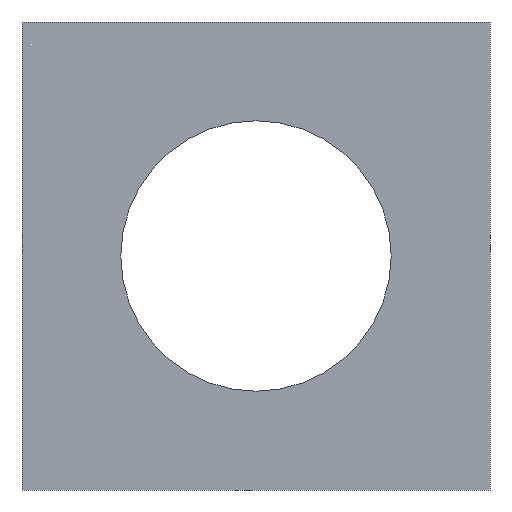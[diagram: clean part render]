
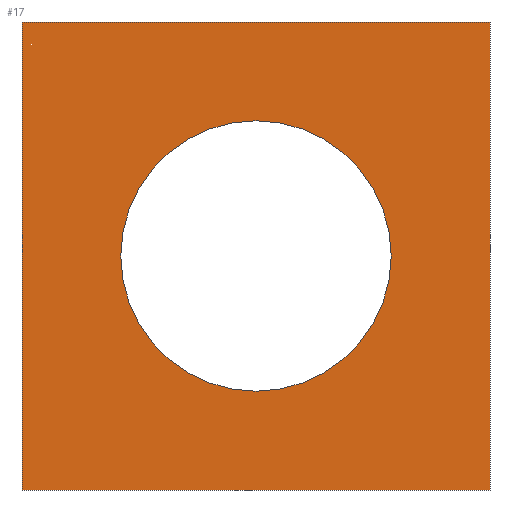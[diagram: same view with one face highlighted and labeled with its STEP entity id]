
A CAD part, left-side view. The second image highlights one B-rep face of the part: STEP entity #17.
In plain terms, the highlighted planar face has unit normal (-1, 0, 0).
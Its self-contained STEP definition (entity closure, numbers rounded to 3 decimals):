
#17 = ADVANCED_FACE('',(#18,#137),#32,.F.);
#18 = FACE_BOUND('',#19,.F.);
#19 = EDGE_LOOP('',(#20,#55,#83,#111));
#20 = ORIENTED_EDGE('',*,*,#21,.F.);
#21 = EDGE_CURVE('',#22,#24,#26,.T.);
#22 = VERTEX_POINT('',#23);
#23 = CARTESIAN_POINT('',(-6.,-9.,0.));
#24 = VERTEX_POINT('',#25);
#25 = CARTESIAN_POINT('',(-6.,-9.,18.));
#26 = SURFACE_CURVE('',#27,(#31,#43),.PCURVE_S1.);
#27 = LINE('',#28,#29);
#28 = CARTESIAN_POINT('',(-6.,-9.,0.));
#29 = VECTOR('',#30,1.);
#30 = DIRECTION('',(0.,0.,1.));
#31 = PCURVE('',#32,#37);
#32 = PLANE('',#33);
#33 = AXIS2_PLACEMENT_3D('',#34,#35,#36);
#34 = CARTESIAN_POINT('',(-6.,-9.,0.));
#35 = DIRECTION('',(1.,0.,0.));
#36 = DIRECTION('',(0.,0.,1.));
#37 = DEFINITIONAL_REPRESENTATION('',(#38),#42);
#38 = LINE('',#39,#40);
#39 = CARTESIAN_POINT('',(0.,0.));
#40 = VECTOR('',#41,1.);
#41 = DIRECTION('',(1.,0.));
#42 = ( GEOMETRIC_REPRESENTATION_CONTEXT(2) 
PARAMETRIC_REPRESENTATION_CONTEXT() REPRESENTATION_CONTEXT('2D SPACE',''
  ) );
#43 = PCURVE('',#44,#49);
#44 = PLANE('',#45);
#45 = AXIS2_PLACEMENT_3D('',#46,#47,#48);
#46 = CARTESIAN_POINT('',(-6.,-9.,0.));
#47 = DIRECTION('',(0.,1.,0.));
#48 = DIRECTION('',(0.,0.,1.));
#49 = DEFINITIONAL_REPRESENTATION('',(#50),#54);
#50 = LINE('',#51,#52);
#51 = CARTESIAN_POINT('',(0.,0.));
#52 = VECTOR('',#53,1.);
#53 = DIRECTION('',(1.,0.));
#54 = ( GEOMETRIC_REPRESENTATION_CONTEXT(2) 
PARAMETRIC_REPRESENTATION_CONTEXT() REPRESENTATION_CONTEXT('2D SPACE',''
  ) );
#55 = ORIENTED_EDGE('',*,*,#56,.T.);
#56 = EDGE_CURVE('',#22,#57,#59,.T.);
#57 = VERTEX_POINT('',#58);
#58 = CARTESIAN_POINT('',(-6.,9.,0.));
#59 = SURFACE_CURVE('',#60,(#64,#71),.PCURVE_S1.);
#60 = LINE('',#61,#62);
#61 = CARTESIAN_POINT('',(-6.,-9.,0.));
#62 = VECTOR('',#63,1.);
#63 = DIRECTION('',(0.,1.,0.));
#64 = PCURVE('',#32,#65);
#65 = DEFINITIONAL_REPRESENTATION('',(#66),#70);
#66 = LINE('',#67,#68);
#67 = CARTESIAN_POINT('',(0.,0.));
#68 = VECTOR('',#69,1.);
#69 = DIRECTION('',(0.,-1.));
#70 = ( GEOMETRIC_REPRESENTATION_CONTEXT(2) 
PARAMETRIC_REPRESENTATION_CONTEXT() REPRESENTATION_CONTEXT('2D SPACE',''
  ) );
#71 = PCURVE('',#72,#77);
#72 = PLANE('',#73);
#73 = AXIS2_PLACEMENT_3D('',#74,#75,#76);
#74 = CARTESIAN_POINT('',(-6.,-9.,0.));
#75 = DIRECTION('',(0.,0.,1.));
#76 = DIRECTION('',(1.,0.,0.));
#77 = DEFINITIONAL_REPRESENTATION('',(#78),#82);
#78 = LINE('',#79,#80);
#79 = CARTESIAN_POINT('',(0.,0.));
#80 = VECTOR('',#81,1.);
#81 = DIRECTION('',(0.,1.));
#82 = ( GEOMETRIC_REPRESENTATION_CONTEXT(2) 
PARAMETRIC_REPRESENTATION_CONTEXT() REPRESENTATION_CONTEXT('2D SPACE',''
  ) );
#83 = ORIENTED_EDGE('',*,*,#84,.T.);
#84 = EDGE_CURVE('',#57,#85,#87,.T.);
#85 = VERTEX_POINT('',#86);
#86 = CARTESIAN_POINT('',(-6.,9.,18.));
#87 = SURFACE_CURVE('',#88,(#92,#99),.PCURVE_S1.);
#88 = LINE('',#89,#90);
#89 = CARTESIAN_POINT('',(-6.,9.,0.));
#90 = VECTOR('',#91,1.);
#91 = DIRECTION('',(0.,0.,1.));
#92 = PCURVE('',#32,#93);
#93 = DEFINITIONAL_REPRESENTATION('',(#94),#98);
#94 = LINE('',#95,#96);
#95 = CARTESIAN_POINT('',(0.,-18.));
#96 = VECTOR('',#97,1.);
#97 = DIRECTION('',(1.,0.));
#98 = ( GEOMETRIC_REPRESENTATION_CONTEXT(2) 
PARAMETRIC_REPRESENTATION_CONTEXT() REPRESENTATION_CONTEXT('2D SPACE',''
  ) );
#99 = PCURVE('',#100,#105);
#100 = PLANE('',#101);
#101 = AXIS2_PLACEMENT_3D('',#102,#103,#104);
#102 = CARTESIAN_POINT('',(-6.,9.,0.));
#103 = DIRECTION('',(0.,1.,0.));
#104 = DIRECTION('',(0.,0.,1.));
#105 = DEFINITIONAL_REPRESENTATION('',(#106),#110);
#106 = LINE('',#107,#108);
#107 = CARTESIAN_POINT('',(0.,0.));
#108 = VECTOR('',#109,1.);
#109 = DIRECTION('',(1.,0.));
#110 = ( GEOMETRIC_REPRESENTATION_CONTEXT(2) 
PARAMETRIC_REPRESENTATION_CONTEXT() REPRESENTATION_CONTEXT('2D SPACE',''
  ) );
#111 = ORIENTED_EDGE('',*,*,#112,.F.);
#112 = EDGE_CURVE('',#24,#85,#113,.T.);
#113 = SURFACE_CURVE('',#114,(#118,#125),.PCURVE_S1.);
#114 = LINE('',#115,#116);
#115 = CARTESIAN_POINT('',(-6.,-9.,18.));
#116 = VECTOR('',#117,1.);
#117 = DIRECTION('',(0.,1.,0.));
#118 = PCURVE('',#32,#119);
#119 = DEFINITIONAL_REPRESENTATION('',(#120),#124);
#120 = LINE('',#121,#122);
#121 = CARTESIAN_POINT('',(18.,0.));
#122 = VECTOR('',#123,1.);
#123 = DIRECTION('',(0.,-1.));
#124 = ( GEOMETRIC_REPRESENTATION_CONTEXT(2) 
PARAMETRIC_REPRESENTATION_CONTEXT() REPRESENTATION_CONTEXT('2D SPACE',''
  ) );
#125 = PCURVE('',#126,#131);
#126 = PLANE('',#127);
#127 = AXIS2_PLACEMENT_3D('',#128,#129,#130);
#128 = CARTESIAN_POINT('',(-6.,-9.,18.));
#129 = DIRECTION('',(0.,0.,1.));
#130 = DIRECTION('',(1.,0.,0.));
#131 = DEFINITIONAL_REPRESENTATION('',(#132),#136);
#132 = LINE('',#133,#134);
#133 = CARTESIAN_POINT('',(0.,0.));
#134 = VECTOR('',#135,1.);
#135 = DIRECTION('',(0.,1.));
#136 = ( GEOMETRIC_REPRESENTATION_CONTEXT(2) 
PARAMETRIC_REPRESENTATION_CONTEXT() REPRESENTATION_CONTEXT('2D SPACE',''
  ) );
#137 = FACE_BOUND('',#138,.F.);
#138 = EDGE_LOOP('',(#139));
#139 = ORIENTED_EDGE('',*,*,#140,.T.);
#140 = EDGE_CURVE('',#141,#141,#143,.T.);
#141 = VERTEX_POINT('',#142);
#142 = CARTESIAN_POINT('',(-6.,0.,3.8));
#143 = SURFACE_CURVE('',#144,(#149,#160),.PCURVE_S1.);
#144 = CIRCLE('',#145,5.2);
#145 = AXIS2_PLACEMENT_3D('',#146,#147,#148);
#146 = CARTESIAN_POINT('',(-6.,0.,9.));
#147 = DIRECTION('',(-1.,-0.,0.));
#148 = DIRECTION('',(0.,0.,-1.));
#149 = PCURVE('',#32,#150);
#150 = DEFINITIONAL_REPRESENTATION('',(#151),#159);
#151 = ( BOUNDED_CURVE() B_SPLINE_CURVE(2,(#152,#153,#154,#155,#156,#157
,#158),.UNSPECIFIED.,.T.,.F.) B_SPLINE_CURVE_WITH_KNOTS((1,2,2,2,2,1),(
    -2.094,0.,2.094,4.189,6.283,
8.378),.UNSPECIFIED.) CURVE() GEOMETRIC_REPRESENTATION_ITEM() 
RATIONAL_B_SPLINE_CURVE((1.,0.5,1.,0.5,1.,0.5,1.)) REPRESENTATION_ITEM(
  '') );
#152 = CARTESIAN_POINT('',(3.8,-9.));
#153 = CARTESIAN_POINT('',(3.8,0.007));
#154 = CARTESIAN_POINT('',(11.6,-4.497));
#155 = CARTESIAN_POINT('',(19.4,-9.));
#156 = CARTESIAN_POINT('',(11.6,-13.503));
#157 = CARTESIAN_POINT('',(3.8,-18.007));
#158 = CARTESIAN_POINT('',(3.8,-9.));
#159 = ( GEOMETRIC_REPRESENTATION_CONTEXT(2) 
PARAMETRIC_REPRESENTATION_CONTEXT() REPRESENTATION_CONTEXT('2D SPACE',''
  ) );
#160 = PCURVE('',#161,#166);
#161 = CYLINDRICAL_SURFACE('',#162,5.2);
#162 = AXIS2_PLACEMENT_3D('',#163,#164,#165);
#163 = CARTESIAN_POINT('',(-8.,0.,9.));
#164 = DIRECTION('',(-1.,-0.,0.));
#165 = DIRECTION('',(0.,0.,-1.));
#166 = DEFINITIONAL_REPRESENTATION('',(#167),#171);
#167 = LINE('',#168,#169);
#168 = CARTESIAN_POINT('',(-6.283,-2.));
#169 = VECTOR('',#170,1.);
#170 = DIRECTION('',(1.,-0.));
#171 = ( GEOMETRIC_REPRESENTATION_CONTEXT(2) 
PARAMETRIC_REPRESENTATION_CONTEXT() REPRESENTATION_CONTEXT('2D SPACE',''
  ) );
